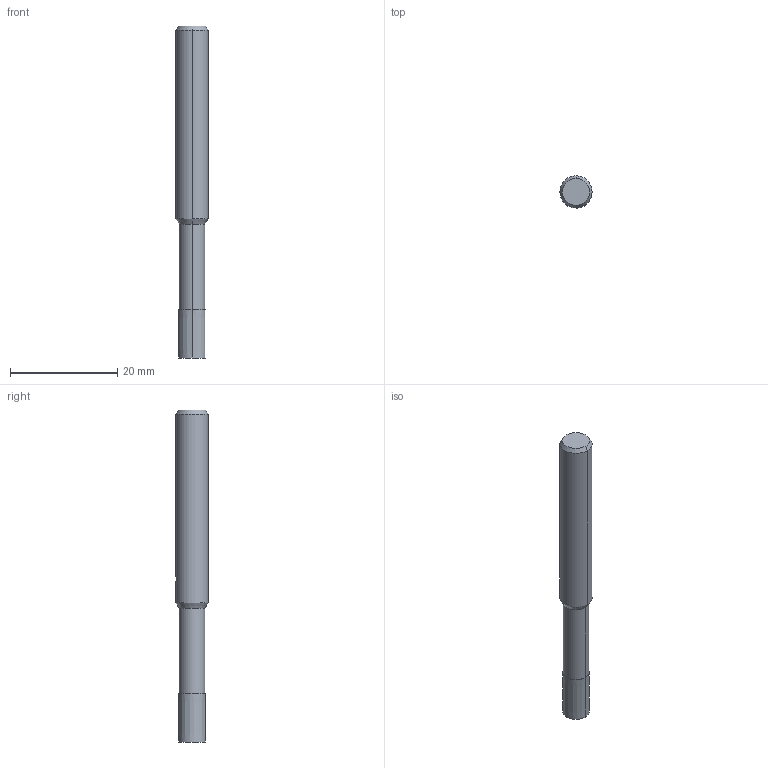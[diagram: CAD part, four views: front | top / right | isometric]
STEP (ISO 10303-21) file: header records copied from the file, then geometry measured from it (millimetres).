
FILE_DESCRIPTION(('no description'),'unknown implementation level');
FILE_NAME('solidgG4VKQ4_YgVNFz3_VuEbSYaW8F4_1.STP',' ',('CIMSOURCE GmbH'),('CADClick - KiM GmbH - www.kimweb.de'),'unknown preprocess','ACIS','unknown authorization');
FILE_SCHEMA(('automotive_design'));
Length unit declared in the file: millimetre
Products named in the file (2): NOCUT; CUT
Bounding box: 6 x 6 x 62 mm (x, y, z)
Volume: 1503.8 mm3; surface area: 1313.7 mm2
Topology: 2 solids, 2 shells, 41 faces, 93 edges, 58 vertices
Faces by surface type: cylinder 16, cone 14, plane 11
Entity records: 2488 total; most frequent: CARTESIAN_POINT 414, DIRECTION 211, STYLED_ITEM 194, PRESENTATION_STYLE_ASSIGNMENT 194, COLOUR_RGB 194, ORIENTED_EDGE 186, EDGE_CURVE 93, CURVE_STYLE 93
